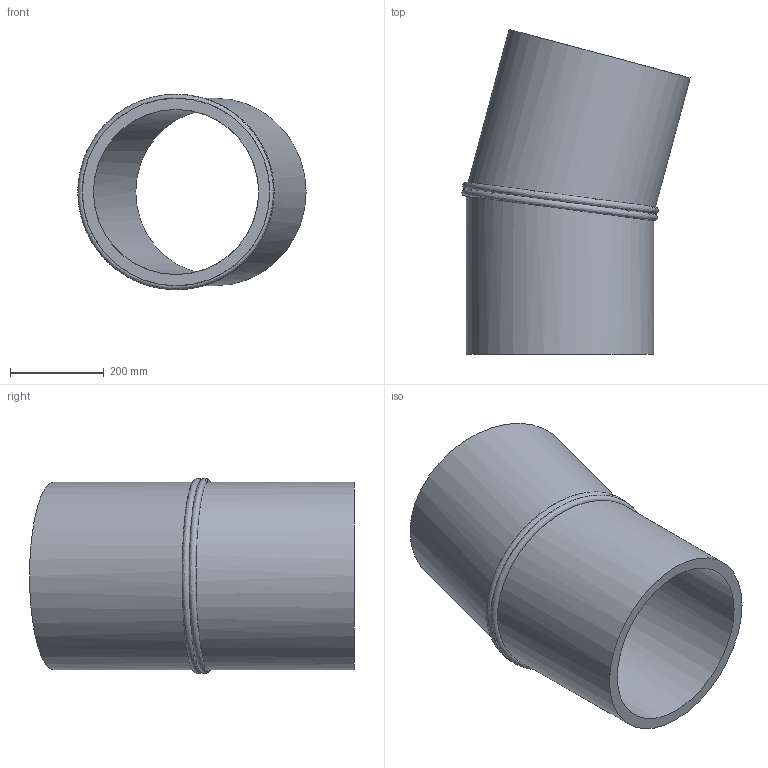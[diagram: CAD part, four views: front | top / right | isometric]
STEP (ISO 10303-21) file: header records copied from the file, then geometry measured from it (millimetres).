
FILE_DESCRIPTION(/* description */ ('Unknown'),/* implementation_level */ '2;1');
FILE_NAME(/* name */ 'Curva 15° a settore DE400 SDR17',/* time_stamp */ '2022-07-22T17:03:01+02:00',/* author */ ('Unknown'),/* organization */ ('Unknown'),/* preprocessor_version */ 'ST-DEVELOPER v18.102',/* originating_system */ 'Solid Edge',/* authorisation */ 'Unknown');
FILE_SCHEMA (('AUTOMOTIVE_DESIGN {1 0 10303 214 3 1 1}'));
Length unit declared in the file: millimetre
Products named in the file (2): Curva 15° a settore DE400 SDR17; Tubo x Gomito 15° DE400 SDR17
Assembly tree (2 placements, depth 2):
  Curva 15° a settore DE400 SDR17
    Tubo x Gomito 15° DE400 SDR17  x2
Bounding box: 487.08 x 693.31 x 416.93 mm (x, y, z)
Volume: 18549803.1 mm3; surface area: 1684426.7 mm2
Topology: 2 solids, 2 shells, 10 faces, 20 edges, 14 vertices
Faces by surface type: cylinder 4, plane 4, bspline 2
Full cylindrical faces by diameter (mm): 352.6 x2, 400 x2
Entity records: 767 total; most frequent: CARTESIAN_POINT 630, DIRECTION 20, ORIENTED_EDGE 10, EDGE_LOOP 10, FACE_BOUND 10, AXIS2_PLACEMENT_3D 10, EDGE_CURVE 5, VERTEX_POINT 5
